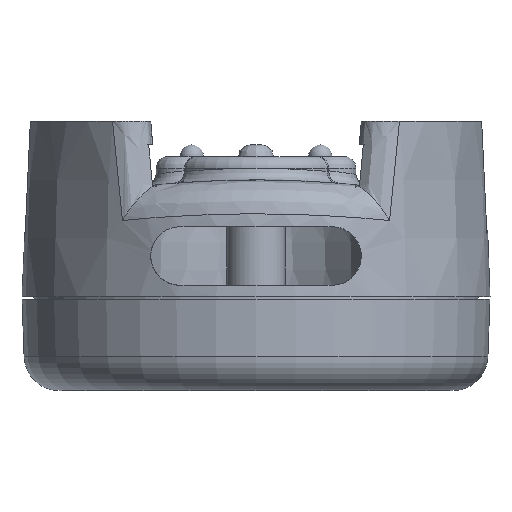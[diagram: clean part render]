
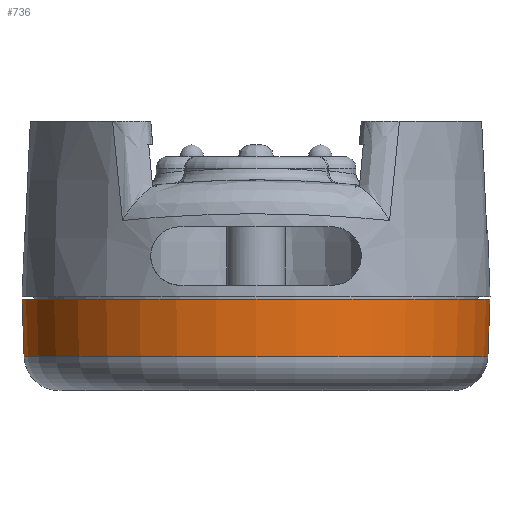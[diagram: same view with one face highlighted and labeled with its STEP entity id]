
A CAD part, left-side view. The second image highlights one B-rep face of the part: STEP entity #736.
In plain terms, the highlighted conical face has half-angle 2 degrees and reference radius 20 mm.
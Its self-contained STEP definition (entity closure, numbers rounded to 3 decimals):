
#267=FACE_OUTER_BOUND('',#1047,.T.);
#370=LINE('',#6394,#472);
#371=LINE('',#6428,#473);
#472=VECTOR('',#3185,1.);
#473=VECTOR('',#3188,1.);
#509=CONICAL_SURFACE('',#2736,20.,2.);
#583=CIRCLE('',#2734,19.822);
#584=CIRCLE('',#2735,19.993);
#736=ADVANCED_FACE('',(#267),#509,.T.);
#1047=EDGE_LOOP('',(#1643,#1644,#1645,#1646));
#1643=ORIENTED_EDGE('',*,*,#2344,.F.);
#1644=ORIENTED_EDGE('',*,*,#2346,.T.);
#1645=ORIENTED_EDGE('',*,*,#2347,.T.);
#1646=ORIENTED_EDGE('',*,*,#2348,.F.);
#2020=VERTEX_POINT('',#6393);
#2021=VERTEX_POINT('',#6395);
#2022=VERTEX_POINT('',#6427);
#2023=VERTEX_POINT('',#6429);
#2344=EDGE_CURVE('',#2020,#2021,#370,.T.);
#2346=EDGE_CURVE('',#2020,#2022,#583,.T.);
#2347=EDGE_CURVE('',#2022,#2023,#371,.T.);
#2348=EDGE_CURVE('',#2021,#2023,#584,.T.);
#2734=AXIS2_PLACEMENT_3D('',#6426,#3186,#3187);
#2735=AXIS2_PLACEMENT_3D('',#6430,#3189,#3190);
#2736=AXIS2_PLACEMENT_3D('',#6431,#3191,#3192);
#3185=DIRECTION('',(0.026,0.023,0.999));
#3186=DIRECTION('',(0.,0.,1.));
#3187=DIRECTION('',(1.,0.,0.));
#3188=DIRECTION('',(0.026,-0.023,0.999));
#3189=DIRECTION('',(0.,0.,1.));
#3190=DIRECTION('',(1.,0.,0.));
#3191=DIRECTION('',(0.,0.,1.));
#3192=DIRECTION('',(1.,0.,0.));
#6393=CARTESIAN_POINT('',(5.031,12.921,-5.105));
#6394=CARTESIAN_POINT('',(5.167,13.037,0.));
#6395=CARTESIAN_POINT('',(5.161,13.033,-0.2));
#6426=CARTESIAN_POINT('',(-10.,0.,-5.105));
#6427=CARTESIAN_POINT('',(5.031,-12.921,-5.105));
#6428=CARTESIAN_POINT('',(5.167,-13.037,0.));
#6429=CARTESIAN_POINT('',(5.161,-13.033,-0.2));
#6430=CARTESIAN_POINT('',(-10.,0.,-0.2));
#6431=CARTESIAN_POINT('',(-10.,0.,0.));
